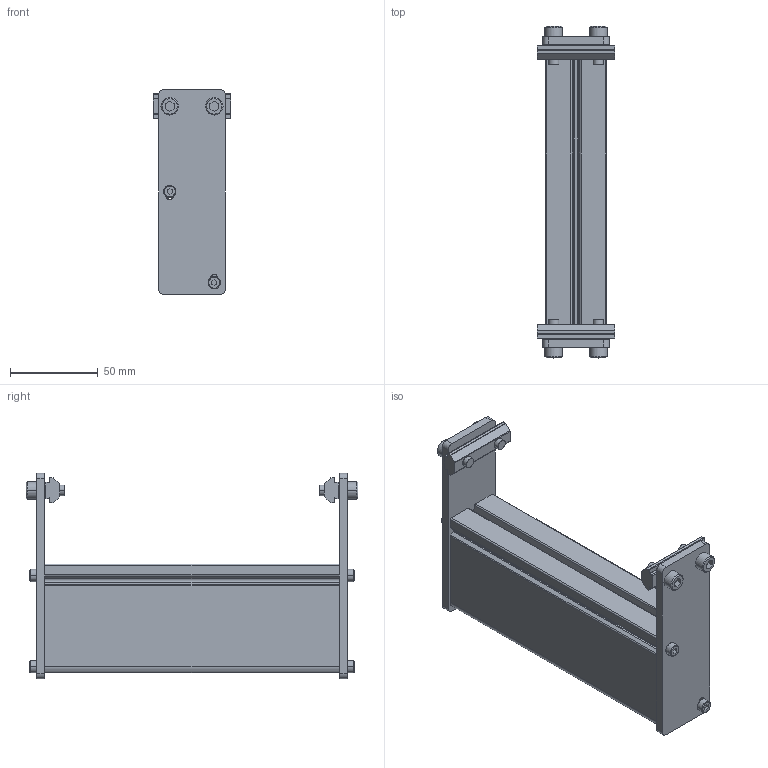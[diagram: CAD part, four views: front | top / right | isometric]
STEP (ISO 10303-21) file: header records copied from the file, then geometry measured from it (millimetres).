
FILE_DESCRIPTION((''),'2;1');
FILE_NAME('350974-06_ASM','2023-03-22T',('jenni.wallner'),(''),'PRO/ENGINEER BY PARAMETRIC TECHNOLOGY CORPORATION, 2012420','PRO/ENGINEER BY PARAMETRIC TECHNOLOGY CORPORATION, 2012420','');
FILE_SCHEMA(('CONFIG_CONTROL_DESIGN'));
Length unit declared in the file: inch
Products named in the file (6): 350979-00662; 350978; 200830M; 920616M; 920416M; 350974-06_ASM
Assembly tree (13 placements, depth 2):
  350974-06_ASM
    350979-00662
    350978  x2
    200830M  x2
    920616M  x4
    920416M  x4
Bounding box: 44.45 x 189.24 x 116.98 mm (x, y, z)
Volume: 183830.5 mm3; surface area: 116465.7 mm2
Topology: 13 solids, 17 shells, 344 faces, 874 edges, 572 vertices
Faces by surface type: plane 168, cylinder 144, cone 32
Entity records: 6060 total; most frequent: DIRECTION 1090, CARTESIAN_POINT 1027, ORIENTED_EDGE 984, EDGE_CURVE 496, AXIS2_PLACEMENT_3D 391, VERTEX_POINT 328, VECTOR 308, LINE 308
